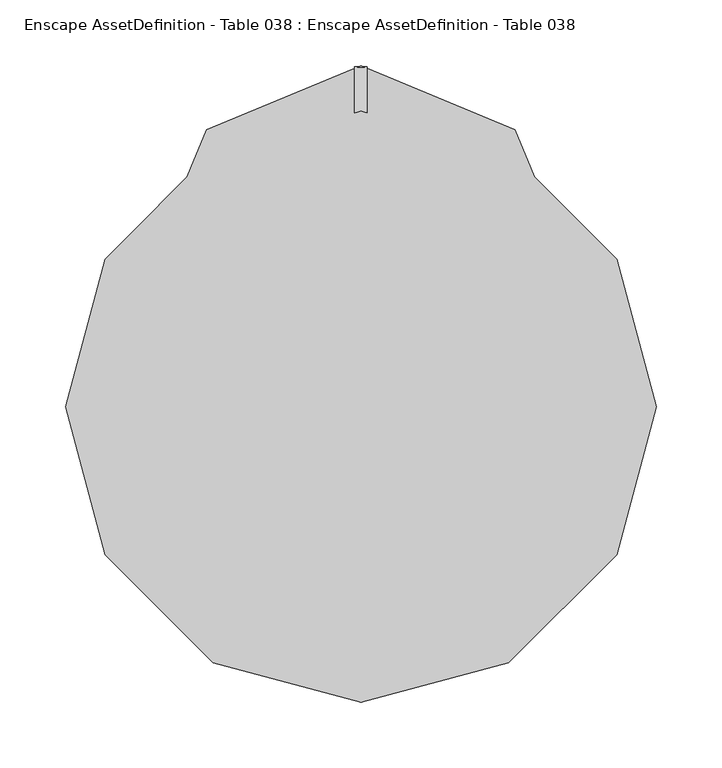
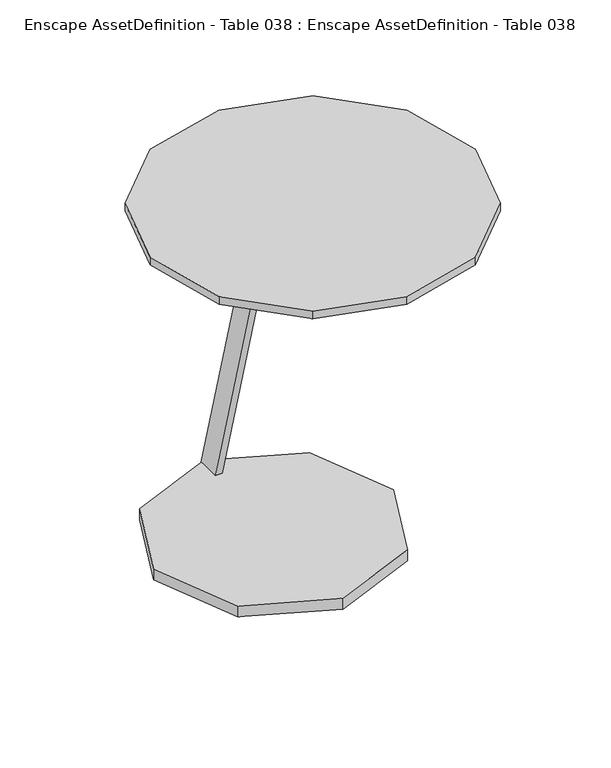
"""IFC4 building model written with IfcOpenShell, lengths in millimetres: geographic element geometry, Enscape AssetDefinition - Table 038 : Enscape AssetDefinition - Table 038."""

from ifc_helpers import new_model, si_unit, origin, place, context, project, spatial, triangles, source, transform, mapped, element, save


def enscape_assetdefinition_table_038_enscape_assetdefinition_902f3cf7(model_context):
    return source(origin(), model_context, "Body", "Tessellation", [
        triangles([(4.88, 226.4080008, 15.2430001), (-4.88, 226.4080008, 15.2430001), (4.88, 259.5460035, 15.2430001), (4.88, 110.7859976, 539.5560196), (4.88, 77.6479948, 539.5560196), (-4.88, 77.6479948, 539.5560196), (-4.88, 259.5460035, 15.2430001), (-4.88, 110.7859976, 539.5560196), (0.0, -72.4340008, 15.7219986), (0.0, -72.4340008, 0.01), (117.7200038, -23.6730009, 0.01), (117.7200038, -23.6730009, 15.7219986), (166.4810082, 94.0470029, 15.7219986), (166.4810082, 94.0470029, 0.01), (0.0, 260.527012, 15.7219986), (117.7200038, 211.7659985, 15.7219986), (117.7200038, 211.7659985, 0.01), (-117.7200038, 211.7659985, 15.7219986), (0.0, 260.527012, 0.01), (-166.4810082, 94.0459946, 15.7219986), (-166.4810082, 94.0459946, 0.01), (-117.7200038, 211.7659985, 0.01), (-117.7200038, -23.6730009, 0.01), (-117.7200038, -23.6730009, 15.7219986), (-195.3759923, 112.8000007, 550.3270191), (0.0, -225.6010006, 550.3270191), (0.0, 225.6000014, 550.3270191), (112.8000007, 195.3759923, 550.3270191), (-112.8000007, 195.3759923, 550.3270191), (-195.3759923, 112.8000007, 539.2839795), (-112.8000007, 195.3759923, 539.2839795), (0.0, 225.6000014, 539.2839795), (-225.6010006, 0.0, 539.2839795), (-112.8000007, -195.3759923, 539.2839795), (-195.3759923, -112.8000007, 539.2839795), (-225.6010006, 0.0, 550.3270191), (-195.3759923, -112.8000007, 550.3270191), (-112.8000007, -195.3759923, 550.3270191), (195.3759923, 112.8000007, 550.3270191), (112.8000007, -195.3759923, 539.2839795), (112.8000007, -195.3759923, 550.3270191), (0.0, -225.6010006, 539.2839795), (195.3759923, -112.8000007, 550.3270191), (195.3759923, -112.8000007, 539.2839795), (225.6010006, 0.0, 550.3270191), (225.6010006, 0.0, 539.2839795), (195.3759923, 112.8000007, 539.2839795), (112.8000007, 195.3759923, 539.2839795)], [[32, 28, 48], [44, 42, 32], [32, 47, 44], [47, 46, 44], [32, 48, 47], [48, 28, 39], [48, 39, 47], [47, 39, 45], [47, 45, 46], [46, 45, 43], [46, 43, 44], [44, 43, 41], [44, 40, 42], [44, 41, 40], [40, 41, 26], [45, 39, 26], [43, 45, 26], [26, 41, 43], [40, 26, 42], [42, 26, 38], [42, 38, 34], [34, 38, 37], [37, 38, 26], [36, 37, 26], [25, 36, 26], [33, 36, 25], [35, 37, 36], [42, 34, 35], [34, 37, 35], [35, 36, 33], [42, 35, 32], [35, 33, 30], [33, 25, 30], [30, 25, 29], [31, 32, 35], [30, 31, 35], [30, 29, 31], [32, 27, 28], [31, 29, 27], [39, 27, 26], [27, 29, 25], [39, 28, 27], [31, 27, 32], [27, 25, 26], [24, 20, 21], [24, 21, 23], [23, 21, 22], [20, 22, 21], [18, 20, 24], [20, 18, 22], [18, 19, 22], [18, 15, 19], [23, 22, 17], [22, 19, 17], [15, 17, 19], [16, 18, 24], [16, 15, 18], [15, 16, 17], [16, 14, 17], [16, 13, 14], [17, 14, 11], [13, 11, 14], [17, 11, 23], [12, 13, 16], [13, 12, 11], [24, 12, 16], [11, 10, 23], [12, 10, 11], [24, 9, 12], [12, 9, 10], [9, 24, 23], [9, 23, 10], [8, 6, 5], [7, 3, 1], [2, 1, 5], [3, 7, 8], [2, 6, 8], [1, 3, 4], [8, 5, 4], [7, 1, 2], [2, 5, 6], [3, 8, 4], [2, 8, 7], [1, 4, 5]]),
    ])


if __name__ == "__main__":
    model = new_model("IFC4")
    model_context = context("Model", 3, world=origin())
    ifc_project = project(units=[si_unit("LENGTHUNIT", "METRE", prefix="MILLI")], contexts=[model_context])
    site = spatial("IfcSite", under=ifc_project)
    building = spatial("IfcBuilding", under=site)
    placement = place(None, origin())
    enscape_assetdefinition_table_038_enscape_assetdefinition_shape = enscape_assetdefinition_table_038_enscape_assetdefinition_902f3cf7(model_context)
    element("IfcGeographicElement", 1, ObjectType="Enscape AssetDefinition - Table 038 : Enscape AssetDefinition - Table 038", at=placement, inside=building, context=model_context, shape_type="MappedRepresentation", body=[
        mapped(enscape_assetdefinition_table_038_enscape_assetdefinition_shape, transform((0.0, 0.0, 0.0), x_axis=(1.0, 0.0, 0.0), y_axis=(0.0, 1.0, 0.0), z_axis=(0.0, 0.0, 1.0))),
    ])
    save(model, "model.ifc")
